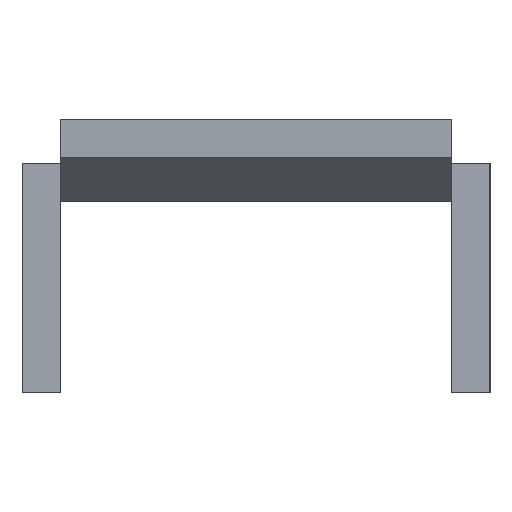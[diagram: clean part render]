
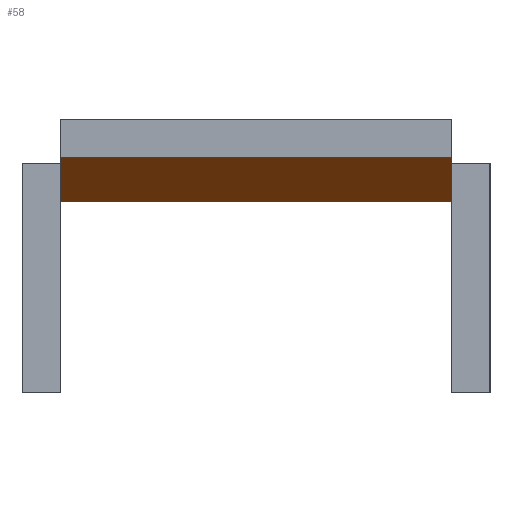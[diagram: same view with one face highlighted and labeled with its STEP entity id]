
A CAD part, left-side view. The second image highlights one B-rep face of the part: STEP entity #58.
In plain terms, the highlighted planar face has unit normal (-0.5, 0, -0.866).
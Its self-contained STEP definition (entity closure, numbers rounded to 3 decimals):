
#58 = ADVANCED_FACE( '', ( #131 ), #132, .F. );
#131 = FACE_OUTER_BOUND( '', #216, .T. );
#132 = PLANE( '', #217 );
#216 = EDGE_LOOP( '', ( #324, #325, #326, #327 ) );
#217 = AXIS2_PLACEMENT_3D( '', #328, #329, #330 );
#324 = ORIENTED_EDGE( '', *, *, #551, .T. );
#325 = ORIENTED_EDGE( '', *, *, #552, .F. );
#326 = ORIENTED_EDGE( '', *, *, #545, .F. );
#327 = ORIENTED_EDGE( '', *, *, #553, .T. );
#328 = CARTESIAN_POINT( '', ( -353.537, 10.25, -2.309 ) );
#329 = DIRECTION( '', ( 0.5, 0., 0.866 ) );
#330 = DIRECTION( '', ( 0.866, 0., -0.5 ) );
#545 = EDGE_CURVE( '', #656, #658, #659, .T. );
#551 = EDGE_CURVE( '', #668, #669, #670, .T. );
#552 = EDGE_CURVE( '', #658, #669, #671, .T. );
#553 = EDGE_CURVE( '', #656, #668, #672, .T. );
#656 = VERTEX_POINT( '', #812 );
#658 = VERTEX_POINT( '', #815 );
#659 = LINE( '', #816, #817 );
#668 = VERTEX_POINT( '', #830 );
#669 = VERTEX_POINT( '', #831 );
#670 = LINE( '', #832, #833 );
#671 = LINE( '', #834, #835 );
#672 = LINE( '', #836, #837 );
#812 = CARTESIAN_POINT( '', ( -353.537, 10.25, -2.309 ) );
#815 = CARTESIAN_POINT( '', ( -357.536, 10.25, 0. ) );
#816 = CARTESIAN_POINT( '', ( -353.537, 10.25, -2.309 ) );
#817 = VECTOR( '', #979, 1000. );
#830 = CARTESIAN_POINT( '', ( -353.537, -10.25, -2.309 ) );
#831 = CARTESIAN_POINT( '', ( -357.536, -10.25, 0. ) );
#832 = CARTESIAN_POINT( '', ( -353.537, -10.25, -2.309 ) );
#833 = VECTOR( '', #984, 1000. );
#834 = CARTESIAN_POINT( '', ( -357.536, 10.25, 0. ) );
#835 = VECTOR( '', #985, 1000. );
#836 = CARTESIAN_POINT( '', ( -353.537, 10.25, -2.309 ) );
#837 = VECTOR( '', #986, 1000. );
#979 = DIRECTION( '', ( -0.866, 0., 0.5 ) );
#984 = DIRECTION( '', ( -0.866, 0., 0.5 ) );
#985 = DIRECTION( '', ( 0., -1., 0. ) );
#986 = DIRECTION( '', ( 0., -1., 0. ) );
